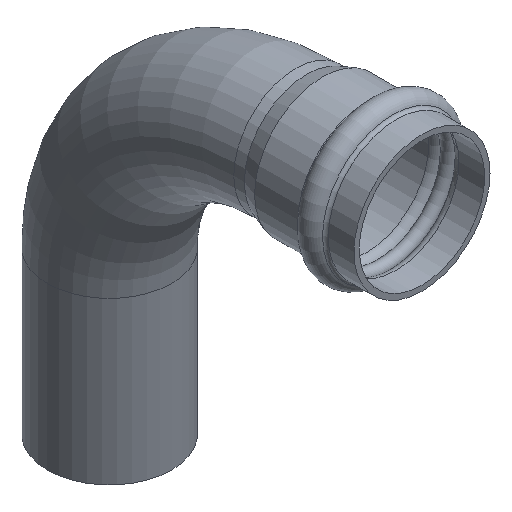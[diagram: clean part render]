
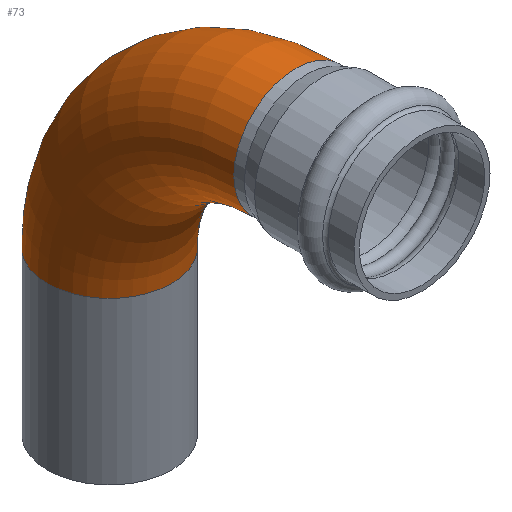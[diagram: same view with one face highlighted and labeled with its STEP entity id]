
A CAD part, isometric view. The second image highlights one B-rep face of the part: STEP entity #73.
In plain terms, the highlighted toroidal (fillet/blend) face has major radius 52.5 mm and minor radius 17.5 mm.
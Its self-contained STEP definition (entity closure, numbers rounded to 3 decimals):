
#73=ADVANCED_FACE('',(#254,#256),#258,.T.);
#254=FACE_BOUND('',#255,.T.);
#255=EDGE_LOOP('',(#310,#311));
#256=FACE_OUTER_BOUND('',#257,.T.);
#257=EDGE_LOOP('',(#312));
#258=TOROIDAL_SURFACE('',#259,52.5,17.5);
#259=AXIS2_PLACEMENT_3D('',#260,#261,#262);
#260=CARTESIAN_POINT('',(0.,35.5,-52.5));
#261=DIRECTION('',(-1.,0.,0.));
#262=DIRECTION('',(0.,0.,1.));
#310=ORIENTED_EDGE('',*,*,#337,.T.);
#311=ORIENTED_EDGE('',*,*,#336,.T.);
#312=ORIENTED_EDGE('',*,*,#335,.F.);
#335=EDGE_CURVE('',#382,#382,#383,.T.);
#336=EDGE_CURVE('',#384,#385,#386,.T.);
#337=EDGE_CURVE('',#385,#384,#387,.T.);
#382=VERTEX_POINT('',#498);
#383=CIRCLE('',#499,17.5);
#384=VERTEX_POINT('',#503);
#385=VERTEX_POINT('',#504);
#386=CIRCLE('',#505,17.5);
#387=CIRCLE('',#509,17.5);
#498=CARTESIAN_POINT('',(-17.5,88.,-52.5));
#499=AXIS2_PLACEMENT_3D('',#500,#501,#502);
#500=CARTESIAN_POINT('',(0.,88.,-52.5));
#501=DIRECTION('',(0.,0.,-1.));
#502=DIRECTION('',(-1.,0.,0.));
#503=CARTESIAN_POINT('',(-17.5,35.5,0.));
#504=CARTESIAN_POINT('',(0.,35.5,17.5));
#505=AXIS2_PLACEMENT_3D('',#506,#507,#508);
#506=CARTESIAN_POINT('',(0.,35.5,0.));
#507=DIRECTION('',(0.,1.,0.));
#508=DIRECTION('',(-1.,0.,0.));
#509=AXIS2_PLACEMENT_3D('',#510,#511,#512);
#510=CARTESIAN_POINT('',(0.,35.5,0.));
#511=DIRECTION('',(0.,1.,0.));
#512=DIRECTION('',(0.,0.,1.));
